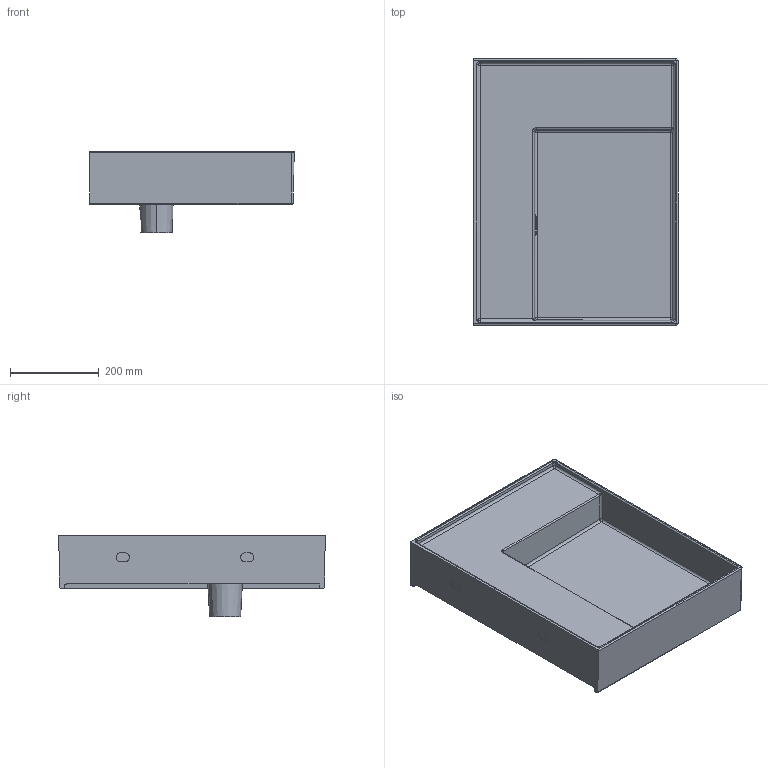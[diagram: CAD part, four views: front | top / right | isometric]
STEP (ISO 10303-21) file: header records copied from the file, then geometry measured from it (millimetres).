
FILE_DESCRIPTION(('CATIA V5 STEP'),'2;1');
FILE_NAME('G:\Laufen Similor\TPM-K\TPE\JStöckli\BIM\Kartell\10334\HY10334BIM.stp','2017-02-07T13:05:51+00:00',('none'),('none'),'CATIA Version 5 Release 19 SP 9 (IN-10)','CATIA V5 STEP AP203','none');
FILE_SCHEMA(('CONFIG_CONTROL_DESIGN'));
Length unit declared in the file: millimetre
Products named in the file (1): HY10334BIM
Bounding box: 459.95 x 599.89 x 184 mm (x, y, z)
Volume: 10090073.1 mm3; surface area: 1095432.7 mm2
Topology: 1 solids, 1 shells, 99 faces, 244 edges, 148 vertices
Faces by surface type: cylinder 38, plane 36, bspline 16, sphere 7, cone 2
Entity records: 5087 total; most frequent: CARTESIAN_POINT 3006, ORIENTED_EDGE 462, DIRECTION 311, EDGE_CURVE 231, VERTEX_POINT 139, AXIS2_PLACEMENT_3D 130, EDGE_LOOP 104, VECTOR 103
